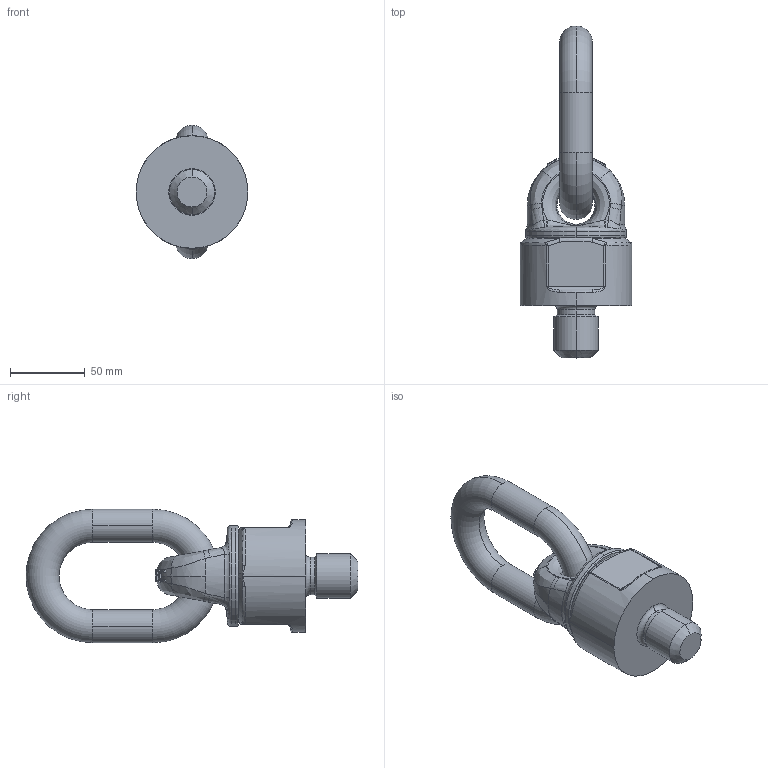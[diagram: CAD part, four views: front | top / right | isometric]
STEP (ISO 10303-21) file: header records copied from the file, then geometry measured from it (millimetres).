
FILE_DESCRIPTION(('STEP AP214'),'1');
FILE_NAME('c8000503035.stp','2017-03-22T14:20:19',('TraceParts'),('TraceParts S.A.'),'Spatial InterOp 3D',' ',' ');
FILE_SCHEMA(('automotive_design'));
Length unit declared in the file: millimetre
Products named in the file (3): c8000503035_1; c8000503035_2; c8000503035_3
Bounding box: 74.36 x 221.4 x 89 mm (x, y, z)
Volume: 399185.2 mm3; surface area: 63999.4 mm2
Topology: 3 solids, 3 shells, 271 faces, 766 edges, 492 vertices
Faces by surface type: bspline 127, plane 64, cone 32, cylinder 26, torus 18, sphere 4
Entity records: 21310 total; most frequent: CARTESIAN_POINT 12911, ORIENTED_EDGE 1514, DIRECTION 1033, EDGE_CURVE 757, VERTEX_POINT 492, AXIS2_PLACEMENT_3D 434, B_SPLINE_CURVE_WITH_KNOTS 286, EDGE_LOOP 275
